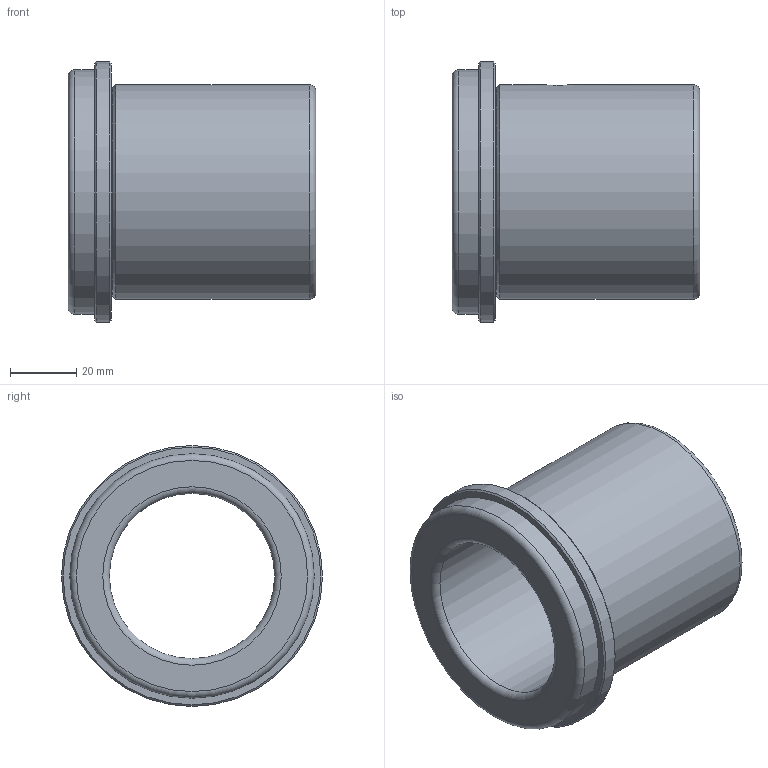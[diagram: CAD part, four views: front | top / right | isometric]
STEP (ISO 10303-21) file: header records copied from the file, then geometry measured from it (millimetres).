
FILE_DESCRIPTION( ( 'STEP AP214' ), '1' );
FILE_NAME( 'p:/temp/worker_900/temp/exporttempdir_4268_79_Y9UsK/format_1/WZ - 4032 50 x 75.stp', '2020-12-03T19:43:07', ( 'License CC BY-ND 4.0' ), ( 'CADENAS' ), ' ', 'PARTsolutions', ' ' );
FILE_SCHEMA( ( 'AUTOMOTIVE_DESIGN { 1 0 10303 214 1 1 1 1 }' ) );
Length unit declared in the file: millimetre
Products named in the file (1): _WZ - 4032 50 x 75
Bounding box: 75 x 79 x 79 mm (x, y, z)
Volume: 115729 mm3; surface area: 33280.3 mm2
Topology: 1 solids, 1 shells, 19 faces, 34 edges, 20 vertices
Faces by surface type: cylinder 6, plane 5, torus 4, cone 4
Full cylindrical faces by diameter (mm): 8 x1, 50 x1, 63 x1, 65 x1, 74 x1, 79 x1
Entity records: 694 total; most frequent: CARTESIAN_POINT 190, DIRECTION 76, EDGE_LOOP 40, ORIENTED_EDGE 40, AXIS2_PLACEMENT_3D 38, FACE_OUTER_BOUND 29, EDGE_CURVE 20, VERTEX_POINT 20
